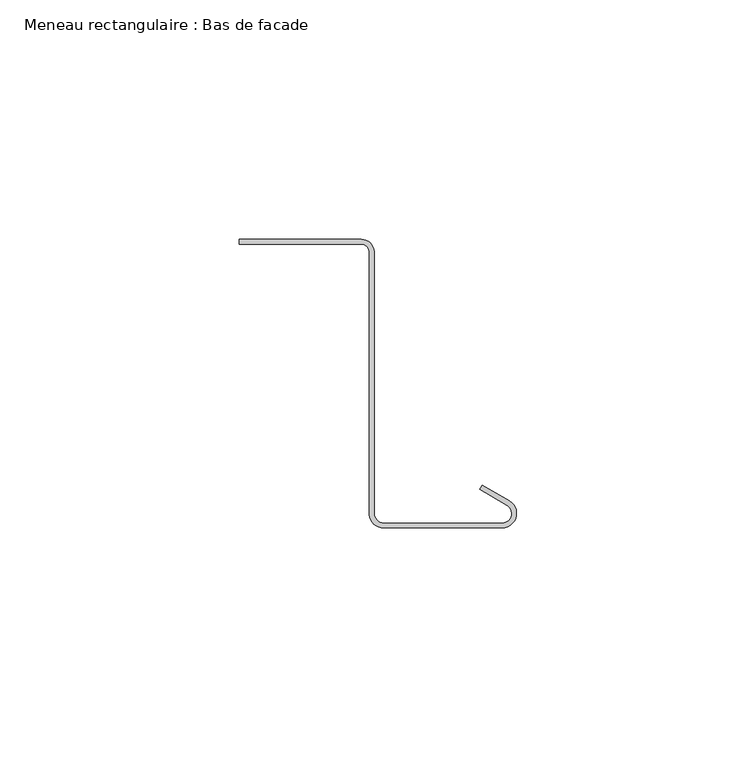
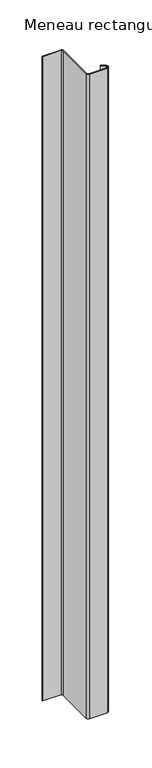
"""IFC4 building model written with IfcOpenShell, lengths in millimetres: member geometry, Meneau rectangulaire : Bas de facade."""

from ifc_helpers import new_model, si_unit, point, frame, frame_2d, origin, place, context, project, spatial, polyline, circle_curve, trimmed, segment, composite_curve, outline, extrude, source, transform, mapped, element, save


def meneau_rectangulaire_bas_de_facade_9cba7d50(model_context):
    return source(origin(), model_context, "Body", "SweptSolid", [
        extrude(outline(composite_curve([segment(trimmed(circle_curve(frame_2d((-32.4584179, 0.2088923)), 2.75), [point((-32.4584179, 2.9588923))], [point((-29.7143802, 0.3898824))], False, "CARTESIAN"), True, "CONTINUOUS"), segment(polyline([(-29.7143802, 0.3898824), (-29.7143802, -54.5495817)]), True, "CONTINUOUS"), segment(trimmed(circle_curve(frame_2d((-27.735368, -54.2605998)), 2.0), [point((-29.7143802, -54.5495817))], [point((-27.735368, -56.2605998))], True, "CARTESIAN"), True, "CONTINUOUS"), segment(polyline([(-27.735368, -56.2605998), (-3.0, -56.2605998)]), True, "CONTINUOUS"), segment(trimmed(circle_curve(frame_2d((-3.0, -54.2605998)), 2.0), [point((-3.0, -56.2605998))], [point((-2.0, -52.528549))], True, "CARTESIAN"), True, "CONTINUOUS"), segment(polyline([(-2.0, -52.528549), (-7.6638061, -49.258549), (-7.1638061, -48.3925235), (-1.5, -51.6625235)]), True, "CONTINUOUS"), segment(trimmed(circle_curve(frame_2d((-3.0, -54.2605998)), 3.0), [point((-1.5, -51.6625235))], [point((-3.0, -57.2605998))], False, "CARTESIAN"), True, "CONTINUOUS"), segment(polyline([(-3.0, -57.2605998), (-27.735368, -57.2605998)]), True, "CONTINUOUS"), segment(trimmed(circle_curve(frame_2d((-27.735368, -54.2605998)), 3.0), [point((-27.735368, -57.2605998))], [point((-30.7239521, -54.522067))], False, "CARTESIAN"), True, "CONTINUOUS"), segment(polyline([(-30.7239521, -54.522067), (-30.7239521, 0.4415475)]), True, "CONTINUOUS"), segment(trimmed(circle_curve(frame_2d((-32.4584179, 0.2088923)), 1.75), [point((-30.7239521, 0.4415475))], [point((-32.4584179, 1.9588923))], True, "CARTESIAN"), True, "CONTINUOUS"), segment(polyline([(-32.4584179, 1.9588923), (-57.8548383, 1.9588923), (-57.8548383, 2.9588923), (-32.4584179, 2.9588923)]), True, "CONTINUOUS")], self_intersect=False)), frame((0.0, 0.0, -932.0), z_axis=(0.0, 0.0, 1.0), x_axis=(1.0, 0.0, 0.0)), (0.0, 0.0, 1.0), 932.0),
    ])


if __name__ == "__main__":
    model = new_model("IFC4")
    model_context = context("Model", 3, world=origin())
    ifc_project = project(units=[si_unit("LENGTHUNIT", "METRE", prefix="MILLI")], contexts=[model_context])
    site = spatial("IfcSite", under=ifc_project)
    building = spatial("IfcBuilding", under=site)
    placement = place(None, origin())
    meneau_rectangulaire_bas_de_facade_shape = meneau_rectangulaire_bas_de_facade_9cba7d50(model_context)
    element("IfcMember", 1, ObjectType="Meneau rectangulaire : Bas de facade", at=placement, inside=building, context=model_context, shape_type="MappedRepresentation", body=[
        mapped(meneau_rectangulaire_bas_de_facade_shape, transform((0.0, 0.0, 0.0), x_axis=(1.0, 0.0, 0.0), y_axis=(0.0, 1.0, 0.0), z_axis=(0.0, 0.0, 1.0))),
    ])
    save(model, "model.ifc")
